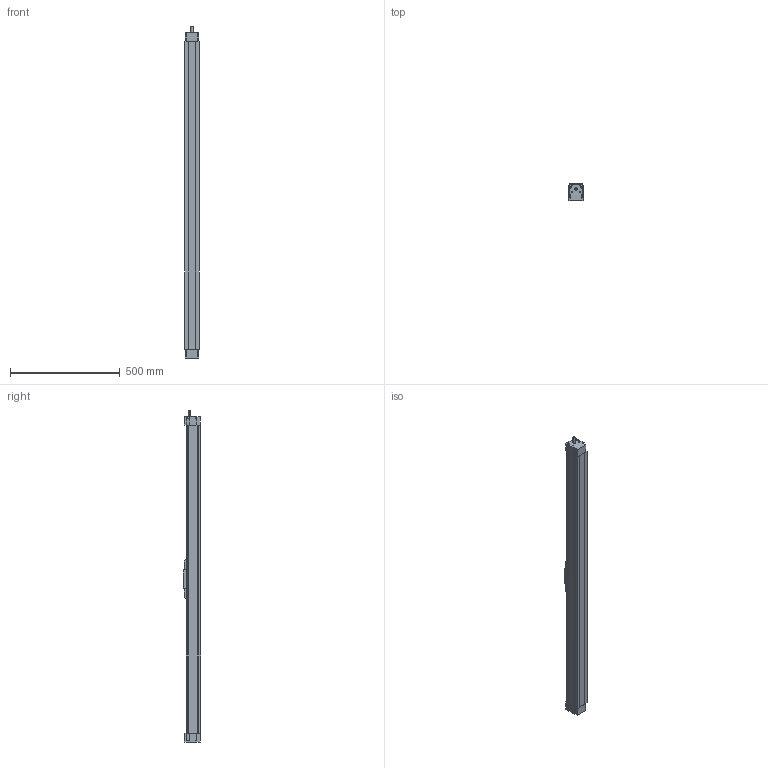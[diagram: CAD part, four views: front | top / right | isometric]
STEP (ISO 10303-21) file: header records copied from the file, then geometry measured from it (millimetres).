
FILE_DESCRIPTION (( 'STEP AP203' ), '1' );
FILE_NAME ('MSX65B-1200-LL1605-P7.STEP', '2013-11-02T02:54:19', ( '微软用户' ), ( '微软中国' ), 'SwSTEP 2.0', 'SolidWorks 2010', '' );
FILE_SCHEMA (( 'CONFIG_CONTROL_DESIGN' ));
Length unit declared in the file: millimetre
Products named in the file (1): MSX65B-1200-LL1605-P7
Bounding box: 65 x 79 x 1510 mm (x, y, z)
Volume: 5856008.4 mm3; surface area: 744922.5 mm2
Topology: 2 solids, 2 shells, 405 faces, 1036 edges, 638 vertices
Faces by surface type: plane 319, cylinder 66, cone 20
Entity records: 12073 total; most frequent: DIRECTION 2080, CARTESIAN_POINT 2068, ORIENTED_EDGE 2048, EDGE_CURVE 1024, VECTOR 780, LINE 780, AXIS2_PLACEMENT_3D 650, VERTEX_POINT 638
